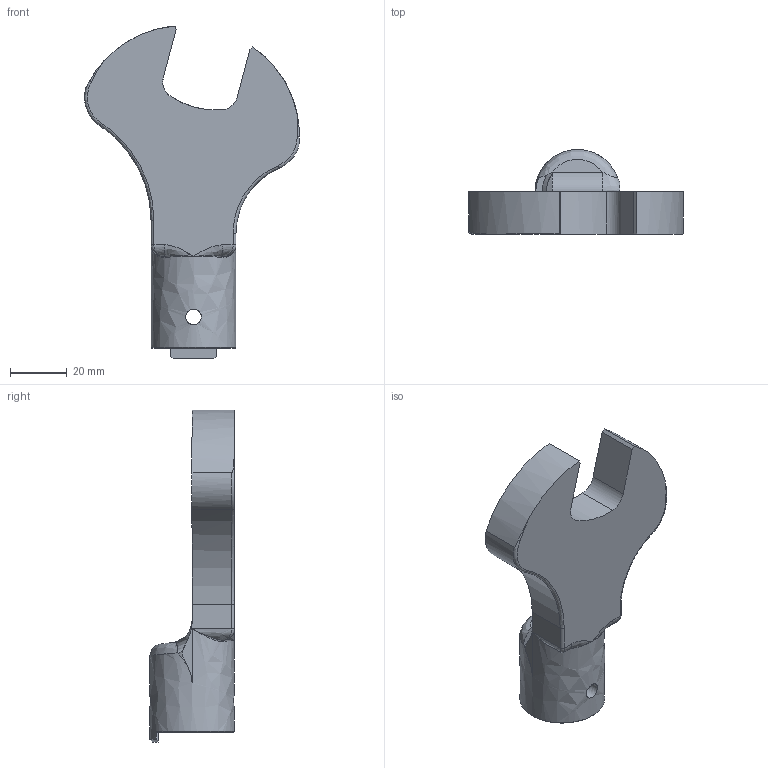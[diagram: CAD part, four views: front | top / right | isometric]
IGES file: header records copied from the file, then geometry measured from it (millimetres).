
Global section: file name: SH22DX27; native system: Autodesk Inventor 2016; preprocessor: unknown; author: Q600; date: 20151029.174857; units: millimetre
Bounding box: 75.92 x 30 x 117.34 mm (x, y, z)
Volume: 63166.9 mm3; surface area: 16501.4 mm2
Topology: 1 solids, 1 shells, 61 faces, 167 edges, 99 vertices
Faces by surface type: bspline 61
